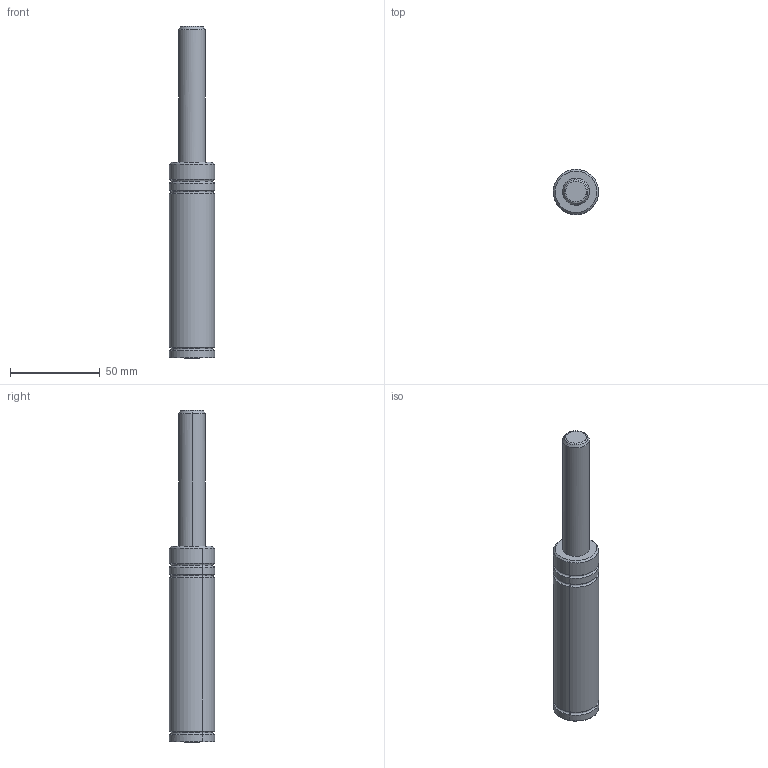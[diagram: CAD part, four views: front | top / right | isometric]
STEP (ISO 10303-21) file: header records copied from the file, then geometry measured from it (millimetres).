
FILE_DESCRIPTION(('CATIA V5 STEP Exchange'),'2;1');
FILE_NAME('W:\CATALOGO GENERAL 2018\FICHEROS CAD\001-MICRO\MICRO 25V\MICRO25Vx75.stp','2021-07-27T06:49:47+00:00',('none'),('none'),'CATIA Version 5 Release 17 (IN-10)','CATIA V5 STEP AP203','none');
FILE_SCHEMA(('CONFIG_CONTROL_DESIGN'));
Length unit declared in the file: millimetre
Products named in the file (1): MICRO25Vx75
Bounding box: 25.19 x 25.19 x 185 mm (x, y, z)
Volume: 67197.7 mm3; surface area: 13781.2 mm2
Topology: 2 solids, 2 shells, 42 faces, 83 edges, 46 vertices
Faces by surface type: torus 18, cylinder 12, cone 7, plane 5
Entity records: 1135 total; most frequent: CARTESIAN_POINT 282, ORIENTED_EDGE 166, DIRECTION 148, AXIS2_PLACEMENT_3D 94, EDGE_CURVE 83, CIRCLE 57, VERTEX_POINT 46, EDGE_LOOP 43
